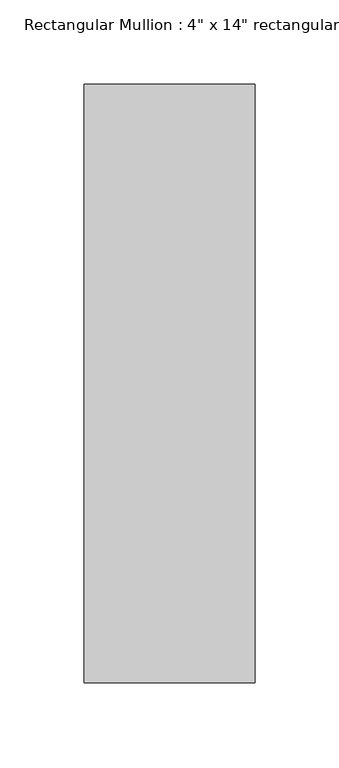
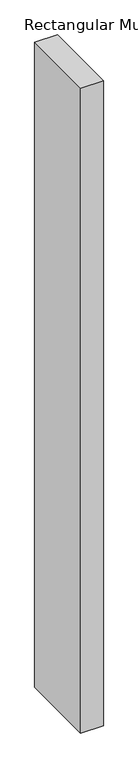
"""IFC4 building model written with IfcOpenShell, lengths in millimetres: member geometry."""

from ifc_helpers import new_model, si_unit, frame, origin, place, context, project, spatial, polyline, outline, extrude, source, transform, mapped, element, save


def member_420dd8f1(model_context):
    return source(origin(), model_context, "Body", "SweptSolid", [
        extrude(outline(polyline([(50.8, 292.1), (50.8, -63.5), (-50.8, -63.5), (-50.8, 292.1), (50.8, 292.1)])), frame((0.0, 0.0, -3048.0), z_axis=(0.0, 0.0, 1.0), x_axis=(1.0, 0.0, 0.0)), (0.0, 0.0, 1.0), 3048.0),
    ])


if __name__ == "__main__":
    model = new_model("IFC4")
    model_context = context("Model", 3, world=origin())
    ifc_project = project(units=[si_unit("LENGTHUNIT", "METRE", prefix="MILLI")], contexts=[model_context])
    site = spatial("IfcSite", under=ifc_project)
    building = spatial("IfcBuilding", under=site)
    placement = place(None, origin())
    member_shape = member_420dd8f1(model_context)
    element("IfcMember", 1, ObjectType="Rectangular Mullion : 4\" x 14\" rectangular", at=placement, inside=building, context=model_context, shape_type="MappedRepresentation", body=[
        mapped(member_shape, transform((0.0, 0.0, 0.0), x_axis=(1.0, 0.0, 0.0), y_axis=(0.0, 1.0, 0.0), z_axis=(0.0, 0.0, 1.0))),
    ])
    save(model, "model.ifc")
